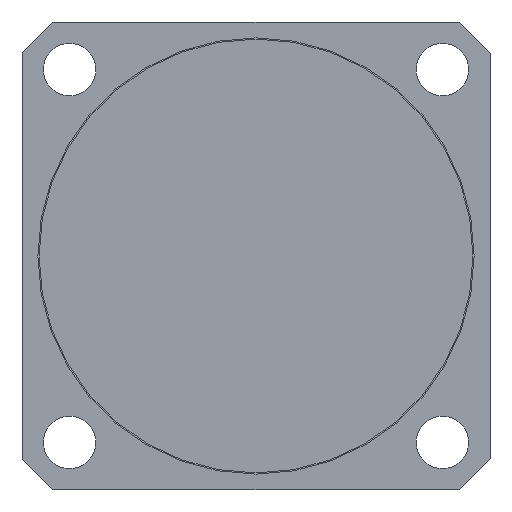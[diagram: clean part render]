
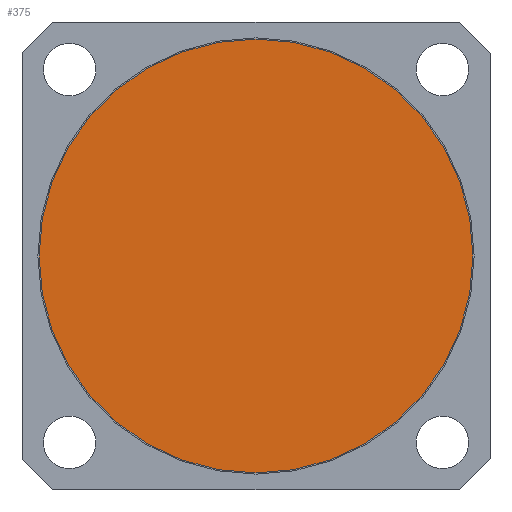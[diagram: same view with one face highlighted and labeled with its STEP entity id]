
A CAD part, front view. The second image highlights one B-rep face of the part: STEP entity #375.
In plain terms, the highlighted planar face has unit normal (0, -1, 0).
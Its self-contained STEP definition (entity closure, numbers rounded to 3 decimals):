
#375 = ADVANCED_FACE( '', ( #881 ), #882, .T. );
#881 = FACE_OUTER_BOUND( '', #1869, .T. );
#882 = PLANE( '', #1870 );
#1869 = EDGE_LOOP( '', ( #3053 ) );
#1870 = AXIS2_PLACEMENT_3D( '', #3054, #3055, #3056 );
#3053 = ORIENTED_EDGE( '', *, *, #6142, .T. );
#3054 = CARTESIAN_POINT( '', ( 0., -70.5, 0. ) );
#3055 = DIRECTION( '', ( 0., -1., 0. ) );
#3056 = DIRECTION( '', ( 1., 0., 0. ) );
#6142 = EDGE_CURVE( '', #7259, #7259, #7260, .T. );
#7259 = VERTEX_POINT( '', #9062 );
#7260 = CIRCLE( '', #9063, 27.35 );
#9062 = CARTESIAN_POINT( '', ( -27.35, -70.5, 0. ) );
#9063 = AXIS2_PLACEMENT_3D( '', #11364, #11365, #11366 );
#11364 = CARTESIAN_POINT( '', ( 0., -70.5, 0. ) );
#11365 = DIRECTION( '', ( 0., -1., 0. ) );
#11366 = DIRECTION( '', ( -1., 0., 0. ) );
